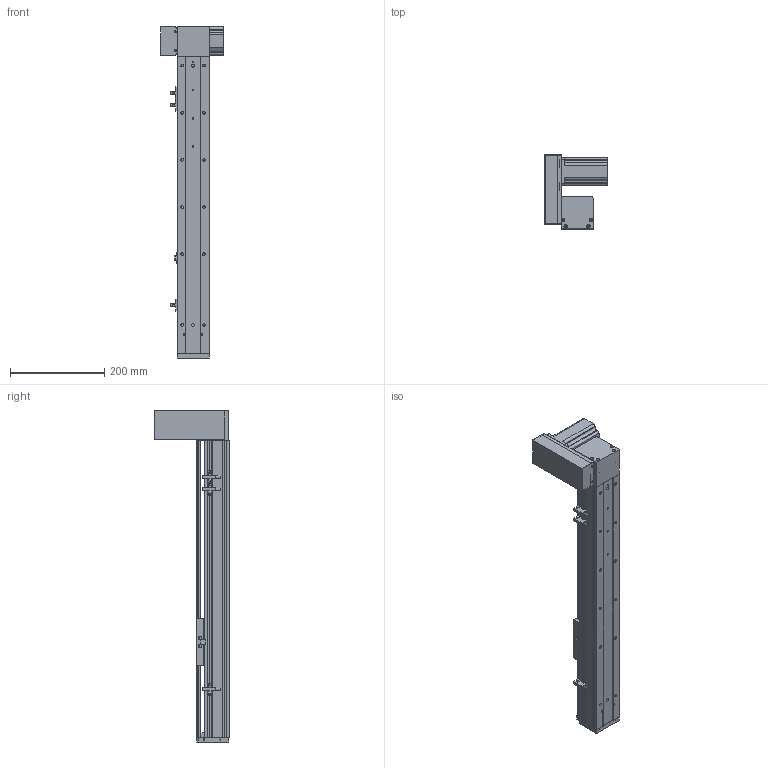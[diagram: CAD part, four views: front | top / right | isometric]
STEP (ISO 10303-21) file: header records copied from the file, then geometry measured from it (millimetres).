
FILE_DESCRIPTION (( 'STEP AP203' ), '1' );
FILE_NAME ('ML68-S450-UR.STEP', '2016-08-05T00:50:19', ( '' ), ( '' ), 'SwSTEP 2.0', 'SolidWorks 2014', '' );
FILE_SCHEMA (( 'CONFIG_CONTROL_DESIGN' ));
Length unit declared in the file: millimetre
Products named in the file (12): 葩璃 ML68菁釱^ML68-S450-UR; ML68奻裔^ML68-S450-UR; 60換覜結え; ML68-S450-UR; QS68左右折电机板罩子; QS68酘衵殏萇儂啣; 換覜ん; ML68雄赽釱; ML68傷啣; 三协电机MH201N2_預設; ML68-BL傷啣; ML68滅鳥啣盓傅輸
Assembly tree (13 placements, depth 2):
  ML68-S450-UR
    葩璃 ML68菁釱^ML68-S450-UR
    ML68奻裔^ML68-S450-UR
    ML68傷啣
    ML68-BL傷啣
    60換覜結え
    換覜ん  x3
    三协电机MH201N2_預設
    ML68雄赽釱
    QS68酘衵殏萇儂啣
    QS68左右折电机板罩子
    ML68滅鳥啣盓傅輸
Bounding box: 133.5 x 157 x 704 mm (x, y, z)
Volume: 1488346.9 mm3; surface area: 535419.8 mm2
Topology: 13 solids, 13 shells, 887 faces, 2426 edges, 1537 vertices
Faces by surface type: cylinder 402, plane 389, cone 96
Entity records: 27982 total; most frequent: CARTESIAN_POINT 5278, DIRECTION 4592, ORIENTED_EDGE 4352, EDGE_CURVE 2176, AXIS2_PLACEMENT_3D 1655, VERTEX_POINT 1425, LINE 1282, VECTOR 1282
